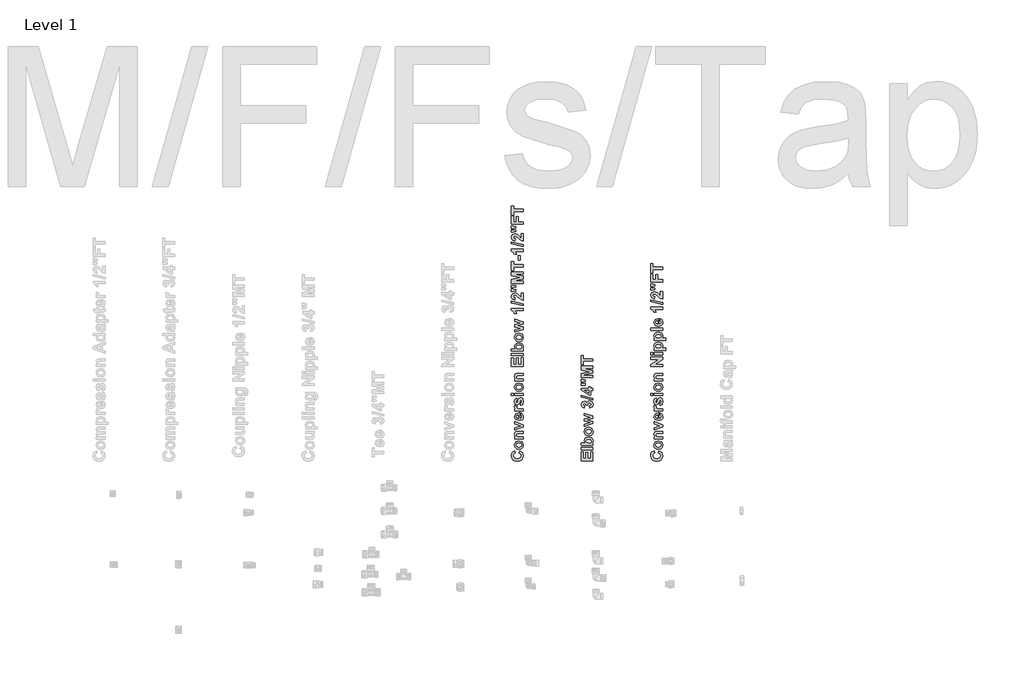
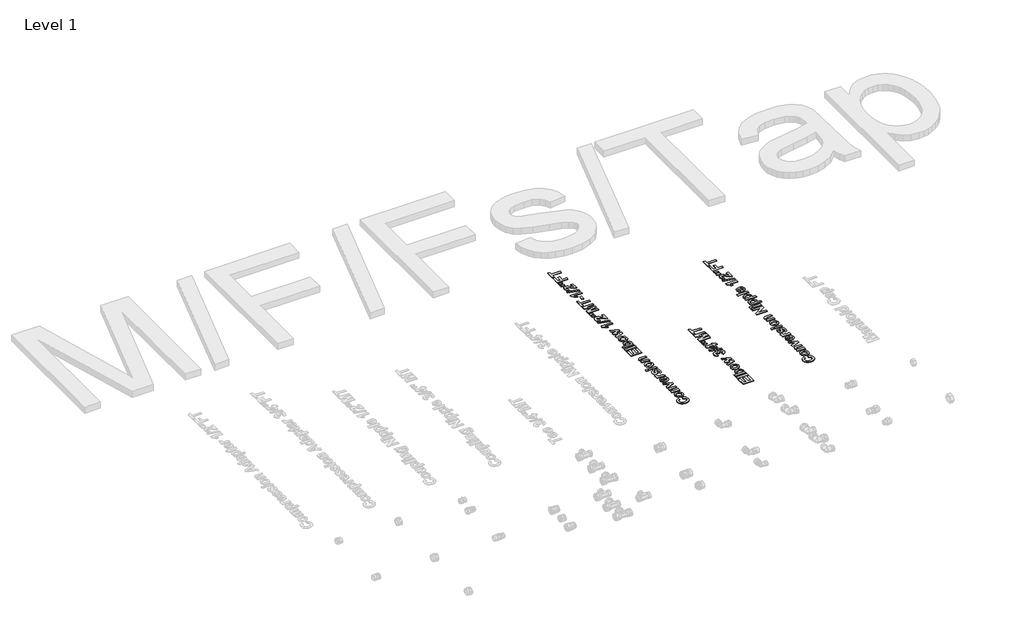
# One storey, part 57 of 58: 3 proxies.
"""IFC4 building model written with IfcOpenShell, lengths in millimetres."""

from ifc_helpers import new_model, si_unit, frame, origin, place, context, project, spatial, polyline, outline, extrude, element, save

model = new_model("IFC4")

# Units and contexts
model_context = context("Model", 3, world=origin())
ifc_project = project(units=[si_unit("LENGTHUNIT", "METRE", prefix="MILLI")], contexts=[model_context])

# Site, building, storey
site = spatial("IfcSite", under=ifc_project)
building = spatial("IfcBuilding", under=site)
storey = spatial("IfcBuildingStorey", under=building, Name="Level 1", Elevation=27.3876384)

# Proxies
placement = place(None, origin())
element("IfcBuildingElementProxy", 1, Name="50mm Arial", ObjectType="50mm Arial", at=placement, inside=storey, context=model_context, shape_type="SweptSolid", body=[
    extrude(outline(polyline([(34199.7082138, 30439.3748851), (34202.9471325, 30449.0916413), (34215.1500119, 30441.4371654), (34219.1417262, 30427.8488892), (34217.4368656, 30418.5717909), (34212.322284, 30411.1102584), (34204.2502912, 30406.1949462), (34193.6731973, 30404.5565088), (34182.5583922, 30406.2091797), (34174.2396849, 30411.1671925), (34169.0491911, 30418.8200869), (34167.3190265, 30428.5574026), (34168.7455425, 30437.0848684), (34173.0250904, 30443.8410504), (34182.7038905, 30449.0916413), (34184.3233498, 30439.3748851), (34178.3958755, 30435.3452148), (34176.226053, 30427.8868453), (34180.1671592, 30418.0498948), (34192.9267277, 30414.273265), (34206.2619634, 30417.9360266), (34210.2346997, 30427.4693284), (34207.6979684, 30434.9023938), (34199.7082138, 30439.3748851)])), frame((0.0, 0.0, 27.3876384), z_axis=(0.0, 0.0, 1.0), x_axis=(1.0, 0.0, 0.0)), (0.0, 0.0, 1.0), 2.0),
    extrude(outline(polyline([(34199.9865584, 30454.7597491), (34190.5038647, 30457.1573081), (34183.5009681, 30463.9451202), (34181.0844311, 30473.7504406), (34186.5627585, 30487.4715631), (34200.4167273, 30492.8170442), (34214.4035423, 30487.4146289), (34219.9514559, 30473.8263527), (34217.6424611, 30464.1538786), (34210.867301, 30457.1573081), (34199.9865584, 30454.7597491)]), holes=[polyline([(34200.5179435, 30464.4765053), (34209.5325122, 30467.1650609), (34212.6638887, 30473.8010487), (34209.5325122, 30480.4243844), (34200.4420313, 30483.100288), (34191.5033747, 30480.4243844), (34188.3719982, 30473.8010487), (34191.5033747, 30467.1650609), (34200.5179435, 30464.4765053)])]), frame((0.0, 0.0, 27.3876384), z_axis=(0.0, 0.0, 1.0), x_axis=(1.0, 0.0, 0.0)), (0.0, 0.0, 1.0), 2.0),
    extrude(outline(polyline([(34219.1417262, 30533.3035283), (34219.1417262, 30523.5867721), (34199.9992104, 30523.5867721), (34192.1296501, 30522.9794748), (34189.3588563, 30520.9931067), (34188.3719982, 30517.6909279), (34189.7826992, 30513.2437406), (34193.527699, 30510.548859), (34202.1500549, 30509.8213675), (34219.1417262, 30509.8213675), (34219.1417262, 30500.1046113), (34181.8941608, 30500.1046113), (34181.8941608, 30509.8213675), (34187.2586199, 30509.8213675), (34182.6279783, 30515.0371653), (34181.0844311, 30521.4485797), (34182.2610695, 30527.0913834), (34185.2595998, 30530.9629034), (34189.3904864, 30532.7911212), (34196.0138221, 30533.3035283), (34219.1417262, 30533.3035283)])), frame((0.0, 0.0, 27.3876384), z_axis=(0.0, 0.0, 1.0), x_axis=(1.0, 0.0, 0.0)), (0.0, 0.0, 1.0), 2.0),
    extrude(outline(polyline([(34219.1417262, 30553.0153853), (34181.8941608, 30538.5667712), (34181.8941608, 30548.2835274), (34200.8975043, 30555.1915338), (34207.2488215, 30557.1905539), (34204.0605108, 30558.177412), (34200.8975043, 30559.2022261), (34181.8941608, 30566.0975804), (34181.8941608, 30575.8143366), (34219.1417262, 30561.568155), (34219.1417262, 30553.0153853)])), frame((0.0, 0.0, 27.3876384), z_axis=(0.0, 0.0, 1.0), x_axis=(1.0, 0.0, 0.0)), (0.0, 0.0, 1.0), 2.0),
    extrude(outline(polyline([(34207.8055106, 30602.940281), (34209.42497, 30612.6570372), (34217.2629003, 30606.8624091), (34219.9514559, 30596.9558726), (34218.3667896, 30588.7668485), (34213.6127907, 30583.0259916), (34200.7962881, 30579.4581202), (34186.32237, 30584.189978), (34181.0844311, 30596.1587949), (34186.4615423, 30608.9752975), (34202.9471325, 30613.4667669), (34202.9471325, 30589.1748764), (34210.1081794, 30591.4648931), (34212.6638887, 30596.9179165), (34211.5125543, 30600.6502642), (34207.8055106, 30602.940281)]), holes=[polyline([(34197.2790248, 30603.7500107), (34190.643037, 30601.5865142), (34188.3719982, 30596.5763118), (34190.7632312, 30591.3636769), (34197.2790248, 30589.3393527), (34197.2790248, 30603.7500107)])]), frame((0.0, 0.0, 27.3876384), z_axis=(0.0, 0.0, 1.0), x_axis=(1.0, 0.0, 0.0)), (0.0, 0.0, 1.0), 2.0),
    extrude(outline(polyline([(34219.1417262, 30630.4710902), (34219.1417262, 30620.754334), (34181.8941608, 30620.754334), (34181.8941608, 30630.4710902), (34187.0814916, 30630.4710902), (34182.2420915, 30634.3552623), (34181.0844311, 30638.2773904), (34183.1340594, 30644.2364948), (34192.3826906, 30641.4024409), (34190.8011873, 30636.8983196), (34191.9082396, 30633.4759464), (34195.8999539, 30631.2744939), (34207.995291, 30630.4710902), (34219.1417262, 30630.4710902)])), frame((0.0, 0.0, 27.3876384), z_axis=(0.0, 0.0, 1.0), x_axis=(1.0, 0.0, 0.0)), (0.0, 0.0, 1.0), 2.0),
    extrude(outline(polyline([(34208.6152403, 30644.2364948), (34206.9957809, 30653.953251), (34211.2215577, 30656.4393742), (34212.6638887, 30661.6836391), (34211.2848179, 30667.2631826), (34208.7038045, 30668.5283853), (34206.8819127, 30667.8578279), (34205.604058, 30664.6821693), (34200.8468962, 30650.119687), (34192.4839068, 30645.8559542), (34184.3739579, 30649.5123898), (34181.0844311, 30660.8612573), (34183.7413566, 30671.7293479), (34191.610917, 30676.6256821), (34193.2303763, 30666.9089259), (34189.6245488, 30665.036426), (34188.3719982, 30661.1142979), (34189.4347685, 30656.4963083), (34191.4084846, 30655.5727104), (34193.1671162, 30656.4963083), (34195.8873019, 30665.0933601), (34200.2269469, 30675.3604795), (34207.527166, 30678.2451415), (34216.2886943, 30674.0636468), (34219.9514559, 30661.6836391), (34216.9023175, 30649.9109286), (34208.6152403, 30644.2364948)])), frame((0.0, 0.0, 27.3876384), z_axis=(0.0, 0.0, 1.0), x_axis=(1.0, 0.0, 0.0)), (0.0, 0.0, 1.0), 2.0),
    extrude(outline(polyline([(34219.1417262, 30687.152168), (34181.8941608, 30687.152168), (34181.8941608, 30696.8689242), (34219.1417262, 30696.8689242), (34219.1417262, 30687.152168)])), frame((0.0, 0.0, 27.3876384), z_axis=(0.0, 0.0, 1.0), x_axis=(1.0, 0.0, 0.0)), (0.0, 0.0, 1.0), 2.0),
    extrude(outline(polyline([(34177.0357827, 30687.152168), (34168.1287562, 30687.152168), (34168.1287562, 30696.8689242), (34177.0357827, 30696.8689242), (34177.0357827, 30687.152168)])), frame((0.0, 0.0, 27.3876384), z_axis=(0.0, 0.0, 1.0), x_axis=(1.0, 0.0, 0.0)), (0.0, 0.0, 1.0), 2.0),
    extrude(outline(polyline([(34199.9865584, 30704.1564913), (34190.5038647, 30706.5540503), (34183.5009681, 30713.3418624), (34181.0844311, 30723.1471828), (34186.5627585, 30736.8683053), (34200.4167273, 30742.2137864), (34214.4035423, 30736.8113712), (34219.9514559, 30723.2230949), (34217.6424611, 30713.5506208), (34210.867301, 30706.5540503), (34199.9865584, 30704.1564913)]), holes=[polyline([(34200.5179435, 30713.8732475), (34209.5325122, 30716.5618031), (34212.6638887, 30723.1977909), (34209.5325122, 30729.8211266), (34200.4420313, 30732.4970302), (34191.5033747, 30729.8211266), (34188.3719982, 30723.1977909), (34191.5033747, 30716.5618031), (34200.5179435, 30713.8732475)])]), frame((0.0, 0.0, 27.3876384), z_axis=(0.0, 0.0, 1.0), x_axis=(1.0, 0.0, 0.0)), (0.0, 0.0, 1.0), 2.0),
    extrude(outline(polyline([(34219.1417262, 30782.7002705), (34219.1417262, 30772.9835143), (34199.9992104, 30772.9835143), (34192.1296501, 30772.3762171), (34189.3588563, 30770.3898489), (34188.3719982, 30767.0876701), (34189.7826992, 30762.6404828), (34193.527699, 30759.9456012), (34202.1500549, 30759.2181097), (34219.1417262, 30759.2181097), (34219.1417262, 30749.5013535), (34181.8941608, 30749.5013535), (34181.8941608, 30759.2181097), (34187.2586199, 30759.2181097), (34182.6279783, 30764.4339076), (34181.0844311, 30770.8453219), (34182.2610695, 30776.4881256), (34185.2595998, 30780.3596456), (34189.3904864, 30782.1878634), (34196.0138221, 30782.7002705), (34219.1417262, 30782.7002705)])), frame((0.0, 0.0, 27.3876384), z_axis=(0.0, 0.0, 1.0), x_axis=(1.0, 0.0, 0.0)), (0.0, 0.0, 1.0), 2.0),
    extrude(outline(polyline([(34219.1417262, 30811.8505391), (34168.1287562, 30811.8505391), (34168.1287562, 30849.9078342), (34177.0357827, 30849.9078342), (34177.0357827, 30821.5672953), (34188.3719982, 30821.5672953), (34188.3719982, 30848.2883748), (34197.2790248, 30848.2883748), (34197.2790248, 30821.5672953), (34210.2346997, 30821.5672953), (34210.2346997, 30850.7175638), (34219.1417262, 30850.7175638), (34219.1417262, 30811.8505391)])), frame((0.0, 0.0, 27.3876384), z_axis=(0.0, 0.0, 1.0), x_axis=(1.0, 0.0, 0.0)), (0.0, 0.0, 1.0), 2.0),
    extrude(outline(polyline([(34219.1417262, 30858.8148607), (34168.1287562, 30858.8148607), (34168.1287562, 30868.5316169), (34219.1417262, 30868.5316169), (34219.1417262, 30858.8148607)])), frame((0.0, 0.0, 27.3876384), z_axis=(0.0, 0.0, 1.0), x_axis=(1.0, 0.0, 0.0)), (0.0, 0.0, 1.0), 2.0),
    extrude(outline(polyline([(34219.1417262, 30878.248373), (34168.1287562, 30878.248373), (34168.1287562, 30887.9651292), (34186.1831977, 30887.9651292), (34181.0844311, 30898.5169192), (34186.0060693, 30909.524182), (34200.1383827, 30913.8764791), (34214.8020812, 30909.5494861), (34219.9514559, 30899.0483043), (34218.3952566, 30893.0575698), (34213.777267, 30887.9651292), (34219.1417262, 30887.9651292), (34219.1417262, 30878.248373)]), holes=[polyline([(34199.80943, 30887.9651292), (34208.6152403, 30889.761717), (34212.6638887, 30896.4419868), (34209.7918788, 30901.9013362), (34200.758332, 30904.1597229), (34191.2756383, 30901.8886842), (34188.3719982, 30896.0624261), (34191.2060521, 30890.274124), (34199.80943, 30887.9651292)])]), frame((0.0, 0.0, 27.3876384), z_axis=(0.0, 0.0, 1.0), x_axis=(1.0, 0.0, 0.0)), (0.0, 0.0, 1.0), 2.0),
    extrude(outline(polyline([(34199.9865584, 30918.7348572), (34190.5038647, 30921.1324162), (34183.5009681, 30927.9202283), (34181.0844311, 30937.7255486), (34186.5627585, 30951.4466711), (34200.4167273, 30956.7921522), (34214.4035423, 30951.389737), (34219.9514559, 30937.8014608), (34217.6424611, 30928.1289867), (34210.867301, 30921.1324162), (34199.9865584, 30918.7348572)]), holes=[polyline([(34200.5179435, 30928.4516134), (34209.5325122, 30931.1401689), (34212.6638887, 30937.7761567), (34209.5325122, 30944.3994925), (34200.4420313, 30947.0753961), (34191.5033747, 30944.3994925), (34188.3719982, 30937.7761567), (34191.5033747, 30931.1401689), (34200.5179435, 30928.4516134)])]), frame((0.0, 0.0, 27.3876384), z_axis=(0.0, 0.0, 1.0), x_axis=(1.0, 0.0, 0.0)), (0.0, 0.0, 1.0), 2.0),
    extrude(outline(polyline([(34219.1417262, 30971.8480635), (34181.8941608, 30960.031071), (34181.8941608, 30969.6339589), (34206.2999195, 30976.6305295), (34181.8941608, 30983.1716271), (34181.8941608, 30992.9136873), (34206.2999195, 30999.3029606), (34181.8941608, 31006.3248352), (34181.8941608, 31015.9024191), (34219.1417262, 31004.1107306), (34219.1417262, 30994.5711027), (34195.1914404, 30987.966745), (34219.1417262, 30981.5268636), (34219.1417262, 30971.8480635)])), frame((0.0, 0.0, 27.3876384), z_axis=(0.0, 0.0, 1.0), x_axis=(1.0, 0.0, 0.0)), (0.0, 0.0, 1.0), 2.0),
    extrude(outline(polyline([(34219.1417262, 31062.8667407), (34219.1417262, 31053.1499845), (34182.6785864, 31053.1499845), (34190.8011873, 31041.0040392), (34181.0844311, 31041.0040392), (34176.3209432, 31049.1139881), (34168.1287562, 31055.1237006), (34168.1287562, 31062.8667407), (34219.1417262, 31062.8667407)])), frame((0.0, 0.0, 27.3876384), z_axis=(0.0, 0.0, 1.0), x_axis=(1.0, 0.0, 0.0)), (0.0, 0.0, 1.0), 2.0),
    extrude(outline(polyline([(34219.1417262, 31074.0258278), (34168.1287562, 31086.1717731), (34168.1287562, 31093.6364686), (34219.1417262, 31081.4905234), (34219.1417262, 31074.0258278)])), frame((0.0, 0.0, 27.3876384), z_axis=(0.0, 0.0, 1.0), x_axis=(1.0, 0.0, 0.0)), (0.0, 0.0, 1.0), 2.0),
    extrude(outline(polyline([(34209.42497, 31129.2645746), (34219.1417262, 31129.2645746), (34219.1417262, 31096.8753873), (34209.6084244, 31099.9751338), (34197.6585855, 31110.1600149), (34189.5106806, 31117.6753185), (34183.6654445, 31119.5478184), (34178.7501323, 31117.9726412), (34177.0357827, 31113.6266701), (34178.7248282, 31109.2743731), (34184.3233498, 31107.4018732), (34183.437708, 31097.685117), (34171.6903016, 31102.8977518), (34168.1287562, 31113.8417546), (34172.1204705, 31125.1526661), (34182.0459851, 31129.2645746), (34188.4732145, 31128.1385443), (34194.8624877, 31124.5706729), (34201.239109, 31118.5293303), (34206.7680445, 31112.9814168), (34209.42497, 31111.159525), (34209.42497, 31129.2645746)])), frame((0.0, 0.0, 27.3876384), z_axis=(0.0, 0.0, 1.0), x_axis=(1.0, 0.0, 0.0)), (0.0, 0.0, 1.0), 2.0),
    extrude(outline(polyline([(34185.9428092, 31153.6197252), (34176.6056138, 31151.9370057), (34168.1287562, 31151.9370057), (34168.1287562, 31161.6537619), (34176.6056138, 31161.6537619), (34185.9428092, 31160.1987789), (34185.9428092, 31153.6197252)])), frame((0.0, 0.0, 27.3876384), z_axis=(0.0, 0.0, 1.0), x_axis=(1.0, 0.0, 0.0)), (0.0, 0.0, 1.0), 2.0),
    extrude(outline(polyline([(34185.9428092, 31137.4251316), (34176.6056138, 31135.7424121), (34168.1287562, 31135.7424121), (34168.1287562, 31145.4591683), (34176.6056138, 31145.4591683), (34185.9428092, 31144.0041852), (34185.9428092, 31137.4251316)])), frame((0.0, 0.0, 27.3876384), z_axis=(0.0, 0.0, 1.0), x_axis=(1.0, 0.0, 0.0)), (0.0, 0.0, 1.0), 2.0),
    extrude(outline(polyline([(34219.1417262, 31170.5607884), (34168.1287562, 31170.5607884), (34168.1287562, 31187.210855), (34202.9218285, 31195.2575437), (34168.1287562, 31203.3042325), (34168.1287562, 31219.9542991), (34219.1417262, 31219.9542991), (34219.1417262, 31210.2375429), (34178.9841947, 31209.832678), (34219.1417262, 31200.9509556), (34219.1417262, 31189.5767839), (34178.9841947, 31180.6824095), (34219.1417262, 31180.2775446), (34219.1417262, 31170.5607884)])), frame((0.0, 0.0, 27.3876384), z_axis=(0.0, 0.0, 1.0), x_axis=(1.0, 0.0, 0.0)), (0.0, 0.0, 1.0), 2.0),
    extrude(outline(polyline([(34219.1417262, 31241.0072708), (34177.0357827, 31241.0072708), (34177.0357827, 31226.4321365), (34168.1287562, 31226.4321365), (34168.1287562, 31265.2991613), (34177.0357827, 31265.2991613), (34177.0357827, 31250.724027), (34219.1417262, 31250.724027), (34219.1417262, 31241.0072708)])), frame((0.0, 0.0, 27.3876384), z_axis=(0.0, 0.0, 1.0), x_axis=(1.0, 0.0, 0.0)), (0.0, 0.0, 1.0), 2.0),
    extrude(outline(polyline([(34205.3763216, 31270.1575394), (34196.4692951, 31270.1575394), (34196.4692951, 31289.5910518), (34205.3763216, 31289.5910518), (34205.3763216, 31270.1575394)])), frame((0.0, 0.0, 27.3876384), z_axis=(0.0, 0.0, 1.0), x_axis=(1.0, 0.0, 0.0)), (0.0, 0.0, 1.0), 2.0),
    extrude(outline(polyline([(34219.1417262, 31317.9315906), (34219.1417262, 31308.2148345), (34182.6785864, 31308.2148345), (34190.8011873, 31296.0688892), (34181.0844311, 31296.0688892), (34176.3209432, 31304.1788381), (34168.1287562, 31310.1885506), (34168.1287562, 31317.9315906), (34219.1417262, 31317.9315906)])), frame((0.0, 0.0, 27.3876384), z_axis=(0.0, 0.0, 1.0), x_axis=(1.0, 0.0, 0.0)), (0.0, 0.0, 1.0), 2.0),
    extrude(outline(polyline([(34219.1417262, 31329.0906778), (34168.1287562, 31341.2366231), (34168.1287562, 31348.7013186), (34219.1417262, 31336.5553733), (34219.1417262, 31329.0906778)])), frame((0.0, 0.0, 27.3876384), z_axis=(0.0, 0.0, 1.0), x_axis=(1.0, 0.0, 0.0)), (0.0, 0.0, 1.0), 2.0),
    extrude(outline(polyline([(34209.42497, 31384.3294246), (34219.1417262, 31384.3294246), (34219.1417262, 31351.9402373), (34209.6084244, 31355.0399838), (34197.6585855, 31365.2248649), (34189.5106806, 31372.7401685), (34183.6654445, 31374.6126684), (34178.7501323, 31373.0374911), (34177.0357827, 31368.6915201), (34178.7248282, 31364.3392231), (34184.3233498, 31362.4667232), (34183.437708, 31352.749967), (34171.6903016, 31357.9626018), (34168.1287562, 31368.9066046), (34172.1204705, 31380.2175161), (34182.0459851, 31384.3294246), (34188.4732145, 31383.2033943), (34194.8624877, 31379.6355229), (34201.239109, 31373.5941803), (34206.7680445, 31368.0462668), (34209.42497, 31366.224375), (34209.42497, 31384.3294246)])), frame((0.0, 0.0, 27.3876384), z_axis=(0.0, 0.0, 1.0), x_axis=(1.0, 0.0, 0.0)), (0.0, 0.0, 1.0), 2.0),
    extrude(outline(polyline([(34185.9428092, 31392.4899816), (34176.6056138, 31390.8072621), (34168.1287562, 31390.8072621), (34168.1287562, 31400.5240183), (34176.6056138, 31400.5240183), (34185.9428092, 31399.0690352), (34185.9428092, 31392.4899816)])), frame((0.0, 0.0, 27.3876384), z_axis=(0.0, 0.0, 1.0), x_axis=(1.0, 0.0, 0.0)), (0.0, 0.0, 1.0), 2.0),
    extrude(outline(polyline([(34185.9428092, 31408.6845752), (34176.6056138, 31407.0018557), (34168.1287562, 31407.0018557), (34168.1287562, 31416.7186119), (34176.6056138, 31416.7186119), (34185.9428092, 31415.2636289), (34185.9428092, 31408.6845752)])), frame((0.0, 0.0, 27.3876384), z_axis=(0.0, 0.0, 1.0), x_axis=(1.0, 0.0, 0.0)), (0.0, 0.0, 1.0), 2.0),
    extrude(outline(polyline([(34219.1417262, 31425.6256384), (34168.1287562, 31425.6256384), (34168.1287562, 31460.4440148), (34177.0357827, 31460.4440148), (34177.0357827, 31435.3423946), (34188.3719982, 31435.3423946), (34188.3719982, 31457.205096), (34197.2790248, 31457.205096), (34197.2790248, 31435.3423946), (34219.1417262, 31435.3423946), (34219.1417262, 31425.6256384)])), frame((0.0, 0.0, 27.3876384), z_axis=(0.0, 0.0, 1.0), x_axis=(1.0, 0.0, 0.0)), (0.0, 0.0, 1.0), 2.0),
    extrude(outline(polyline([(34219.1417262, 31479.8775271), (34177.0357827, 31479.8775271), (34177.0357827, 31465.3023929), (34168.1287562, 31465.3023929), (34168.1287562, 31504.1694176), (34177.0357827, 31504.1694176), (34177.0357827, 31489.5942833), (34219.1417262, 31489.5942833), (34219.1417262, 31479.8775271)])), frame((0.0, 0.0, 27.3876384), z_axis=(0.0, 0.0, 1.0), x_axis=(1.0, 0.0, 0.0)), (0.0, 0.0, 1.0), 2.0),
])
element("IfcBuildingElementProxy", 2, Name="50mm Arial", ObjectType="50mm Arial", at=placement, inside=storey, context=model_context, shape_type="SweptSolid", body=[
    extrude(outline(polyline([(34519.1417262, 30406.1759681), (34468.1287562, 30406.1759681), (34468.1287562, 30444.2332632), (34477.0357827, 30444.2332632), (34477.0357827, 30415.8927243), (34488.3719982, 30415.8927243), (34488.3719982, 30442.6138039), (34497.2790248, 30442.6138039), (34497.2790248, 30415.8927243), (34510.2346997, 30415.8927243), (34510.2346997, 30445.0429929), (34519.1417262, 30445.0429929), (34519.1417262, 30406.1759681)])), frame((0.0, 0.0, 27.3876384), z_axis=(0.0, 0.0, 1.0), x_axis=(1.0, 0.0, 0.0)), (0.0, 0.0, 1.0), 2.0),
    extrude(outline(polyline([(34519.1417262, 30453.1402897), (34468.1287562, 30453.1402897), (34468.1287562, 30462.8570459), (34519.1417262, 30462.8570459), (34519.1417262, 30453.1402897)])), frame((0.0, 0.0, 27.3876384), z_axis=(0.0, 0.0, 1.0), x_axis=(1.0, 0.0, 0.0)), (0.0, 0.0, 1.0), 2.0),
    extrude(outline(polyline([(34519.1417262, 30472.5738021), (34468.1287562, 30472.5738021), (34468.1287562, 30482.2905583), (34486.1831977, 30482.2905583), (34481.0844311, 30492.8423482), (34486.0060693, 30503.8496111), (34500.1383827, 30508.2019081), (34514.8020812, 30503.8749151), (34519.9514559, 30493.3737333), (34518.3952566, 30487.3829989), (34513.777267, 30482.2905583), (34519.1417262, 30482.2905583), (34519.1417262, 30472.5738021)]), holes=[polyline([(34499.80943, 30482.2905583), (34508.6152403, 30484.087146), (34512.6638887, 30490.7674159), (34509.7918788, 30496.2267653), (34500.758332, 30498.4851519), (34491.2756383, 30496.2141132), (34488.3719982, 30490.3878551), (34491.2060521, 30484.5995531), (34499.80943, 30482.2905583)])]), frame((0.0, 0.0, 27.3876384), z_axis=(0.0, 0.0, 1.0), x_axis=(1.0, 0.0, 0.0)), (0.0, 0.0, 1.0), 2.0),
    extrude(outline(polyline([(34499.9865584, 30513.0602862), (34490.5038647, 30515.4578452), (34483.5009681, 30522.2456573), (34481.0844311, 30532.0509777), (34486.5627585, 30545.7721002), (34500.4167273, 30551.1175813), (34514.4035423, 30545.7151661), (34519.9514559, 30532.1268899), (34517.6424611, 30522.4544158), (34510.867301, 30515.4578452), (34499.9865584, 30513.0602862)]), holes=[polyline([(34500.5179435, 30522.7770424), (34509.5325122, 30525.465598), (34512.6638887, 30532.1015858), (34509.5325122, 30538.7249216), (34500.4420313, 30541.4008251), (34491.5033747, 30538.7249216), (34488.3719982, 30532.1015858), (34491.5033747, 30525.465598), (34500.5179435, 30522.7770424)])]), frame((0.0, 0.0, 27.3876384), z_axis=(0.0, 0.0, 1.0), x_axis=(1.0, 0.0, 0.0)), (0.0, 0.0, 1.0), 2.0),
    extrude(outline(polyline([(34519.1417262, 30566.1734926), (34481.8941608, 30554.3565), (34481.8941608, 30563.959388), (34506.2999195, 30570.9559585), (34481.8941608, 30577.4970561), (34481.8941608, 30587.2391164), (34506.2999195, 30593.6283896), (34481.8941608, 30600.6502642), (34481.8941608, 30610.2278481), (34519.1417262, 30598.4361596), (34519.1417262, 30588.8965318), (34495.1914404, 30582.2921741), (34519.1417262, 30575.8522927), (34519.1417262, 30566.1734926)])), frame((0.0, 0.0, 27.3876384), z_axis=(0.0, 0.0, 1.0), x_axis=(1.0, 0.0, 0.0)), (0.0, 0.0, 1.0), 2.0),
    extrude(outline(polyline([(34504.8828926, 30632.9002792), (34503.7568622, 30642.6170354), (34509.1719295, 30644.805836), (34511.0444294, 30649.1201769), (34508.8999109, 30653.7128625), (34503.1242609, 30655.5727104), (34497.6712376, 30653.8710128), (34495.6595654, 30649.7148222), (34496.3807309, 30645.8559542), (34488.3719982, 30646.7036399), (34486.7778429, 30651.4924319), (34482.2737216, 30653.1435213), (34478.4591356, 30651.9099487), (34477.0357827, 30648.6267479), (34478.6868721, 30645.1664187), (34483.5136201, 30643.4267651), (34482.0586371, 30633.7100089), (34474.3345751, 30636.3859125), (34469.7861716, 30641.3834629), (34468.1287562, 30648.5634878), (34472.7214417, 30659.4695345), (34481.2236034, 30662.8602775), (34487.2617829, 30661.0415487), (34491.9398697, 30655.5853624), (34496.1087123, 30662.6451931), (34503.9339906, 30665.2894665), (34515.2638801, 30660.6018908), (34519.9514559, 30648.9303966), (34515.7826132, 30637.9547637), (34504.8828926, 30632.9002792)])), frame((0.0, 0.0, 27.3876384), z_axis=(0.0, 0.0, 1.0), x_axis=(1.0, 0.0, 0.0)), (0.0, 0.0, 1.0), 2.0),
    extrude(outline(polyline([(34519.1417262, 30668.3512569), (34468.1287562, 30680.4972021), (34468.1287562, 30687.9618977), (34519.1417262, 30675.8159524), (34519.1417262, 30668.3512569)])), frame((0.0, 0.0, 27.3876384), z_axis=(0.0, 0.0, 1.0), x_axis=(1.0, 0.0, 0.0)), (0.0, 0.0, 1.0), 2.0),
    extrude(outline(polyline([(34519.1417262, 30709.0148694), (34508.6152403, 30709.0148694), (34508.6152403, 30689.581357), (34500.5558996, 30689.581357), (34468.9384859, 30710.3053761), (34468.9384859, 30718.7316256), (34500.5179435, 30718.7316256), (34500.5179435, 30725.2094631), (34508.6152403, 30725.2094631), (34508.6152403, 30718.7316256), (34519.1417262, 30718.7316256), (34519.1417262, 30709.0148694)]), holes=[polyline([(34500.5179435, 30709.0148694), (34483.943789, 30709.0148694), (34500.5179435, 30698.1594308), (34500.5179435, 30709.0148694)])]), frame((0.0, 0.0, 27.3876384), z_axis=(0.0, 0.0, 1.0), x_axis=(1.0, 0.0, 0.0)), (0.0, 0.0, 1.0), 2.0),
    extrude(outline(polyline([(34485.9428092, 30747.9451543), (34476.6056138, 30746.2624348), (34468.1287562, 30746.2624348), (34468.1287562, 30755.979191), (34476.6056138, 30755.979191), (34485.9428092, 30754.524208), (34485.9428092, 30747.9451543)])), frame((0.0, 0.0, 27.3876384), z_axis=(0.0, 0.0, 1.0), x_axis=(1.0, 0.0, 0.0)), (0.0, 0.0, 1.0), 2.0),
    extrude(outline(polyline([(34485.9428092, 30731.7505606), (34476.6056138, 30730.0678411), (34468.1287562, 30730.0678411), (34468.1287562, 30739.7845973), (34476.6056138, 30739.7845973), (34485.9428092, 30738.3296143), (34485.9428092, 30731.7505606)])), frame((0.0, 0.0, 27.3876384), z_axis=(0.0, 0.0, 1.0), x_axis=(1.0, 0.0, 0.0)), (0.0, 0.0, 1.0), 2.0),
    extrude(outline(polyline([(34519.1417262, 30764.8862175), (34468.1287562, 30764.8862175), (34468.1287562, 30781.5362841), (34502.9218285, 30789.5829728), (34468.1287562, 30797.6296615), (34468.1287562, 30814.2797281), (34519.1417262, 30814.2797281), (34519.1417262, 30804.5629719), (34478.9841947, 30804.1581071), (34519.1417262, 30795.2763846), (34519.1417262, 30783.902213), (34478.9841947, 30775.0078385), (34519.1417262, 30774.6029737), (34519.1417262, 30764.8862175)])), frame((0.0, 0.0, 27.3876384), z_axis=(0.0, 0.0, 1.0), x_axis=(1.0, 0.0, 0.0)), (0.0, 0.0, 1.0), 2.0),
    extrude(outline(polyline([(34519.1417262, 30835.3326999), (34477.0357827, 30835.3326999), (34477.0357827, 30820.7575656), (34468.1287562, 30820.7575656), (34468.1287562, 30859.6245903), (34477.0357827, 30859.6245903), (34477.0357827, 30845.0494561), (34519.1417262, 30845.0494561), (34519.1417262, 30835.3326999)])), frame((0.0, 0.0, 27.3876384), z_axis=(0.0, 0.0, 1.0), x_axis=(1.0, 0.0, 0.0)), (0.0, 0.0, 1.0), 2.0),
])
element("IfcBuildingElementProxy", 3, Name="50mm Arial", ObjectType="50mm Arial", at=placement, inside=storey, context=model_context, shape_type="SweptSolid", body=[
    extrude(outline(polyline([(34799.7082138, 30439.3748851), (34802.9471325, 30449.0916413), (34815.1500119, 30441.4371654), (34819.1417262, 30427.8488892), (34817.4368656, 30418.5717909), (34812.322284, 30411.1102584), (34804.2502912, 30406.1949462), (34793.6731973, 30404.5565088), (34782.5583922, 30406.2091797), (34774.2396849, 30411.1671925), (34769.0491911, 30418.8200869), (34767.3190265, 30428.5574026), (34768.7455425, 30437.0848684), (34773.0250904, 30443.8410504), (34782.7038905, 30449.0916413), (34784.3233498, 30439.3748851), (34778.3958755, 30435.3452148), (34776.226053, 30427.8868453), (34780.1671592, 30418.0498948), (34792.9267277, 30414.273265), (34806.2619634, 30417.9360266), (34810.2346997, 30427.4693284), (34807.6979684, 30434.9023938), (34799.7082138, 30439.3748851)])), frame((0.0, 0.0, 27.3876384), z_axis=(0.0, 0.0, 1.0), x_axis=(1.0, 0.0, 0.0)), (0.0, 0.0, 1.0), 2.0),
    extrude(outline(polyline([(34799.9865584, 30454.7597491), (34790.5038647, 30457.1573081), (34783.5009681, 30463.9451202), (34781.0844311, 30473.7504406), (34786.5627585, 30487.4715631), (34800.4167273, 30492.8170442), (34814.4035423, 30487.4146289), (34819.9514559, 30473.8263527), (34817.6424611, 30464.1538786), (34810.867301, 30457.1573081), (34799.9865584, 30454.7597491)]), holes=[polyline([(34800.5179435, 30464.4765053), (34809.5325122, 30467.1650609), (34812.6638887, 30473.8010487), (34809.5325122, 30480.4243844), (34800.4420313, 30483.100288), (34791.5033747, 30480.4243844), (34788.3719982, 30473.8010487), (34791.5033747, 30467.1650609), (34800.5179435, 30464.4765053)])]), frame((0.0, 0.0, 27.3876384), z_axis=(0.0, 0.0, 1.0), x_axis=(1.0, 0.0, 0.0)), (0.0, 0.0, 1.0), 2.0),
    extrude(outline(polyline([(34819.1417262, 30533.3035283), (34819.1417262, 30523.5867721), (34799.9992104, 30523.5867721), (34792.1296501, 30522.9794748), (34789.3588563, 30520.9931067), (34788.3719982, 30517.6909279), (34789.7826992, 30513.2437406), (34793.527699, 30510.548859), (34802.1500549, 30509.8213675), (34819.1417262, 30509.8213675), (34819.1417262, 30500.1046113), (34781.8941608, 30500.1046113), (34781.8941608, 30509.8213675), (34787.2586199, 30509.8213675), (34782.6279783, 30515.0371653), (34781.0844311, 30521.4485797), (34782.2610695, 30527.0913834), (34785.2595998, 30530.9629034), (34789.3904864, 30532.7911212), (34796.0138221, 30533.3035283), (34819.1417262, 30533.3035283)])), frame((0.0, 0.0, 27.3876384), z_axis=(0.0, 0.0, 1.0), x_axis=(1.0, 0.0, 0.0)), (0.0, 0.0, 1.0), 2.0),
    extrude(outline(polyline([(34819.1417262, 30553.0153853), (34781.8941608, 30538.5667712), (34781.8941608, 30548.2835274), (34800.8975043, 30555.1915338), (34807.2488215, 30557.1905539), (34804.0605108, 30558.177412), (34800.8975043, 30559.2022261), (34781.8941608, 30566.0975804), (34781.8941608, 30575.8143366), (34819.1417262, 30561.568155), (34819.1417262, 30553.0153853)])), frame((0.0, 0.0, 27.3876384), z_axis=(0.0, 0.0, 1.0), x_axis=(1.0, 0.0, 0.0)), (0.0, 0.0, 1.0), 2.0),
    extrude(outline(polyline([(34807.8055106, 30602.940281), (34809.42497, 30612.6570372), (34817.2629003, 30606.8624091), (34819.9514559, 30596.9558726), (34818.3667896, 30588.7668485), (34813.6127907, 30583.0259916), (34800.7962881, 30579.4581202), (34786.32237, 30584.189978), (34781.0844311, 30596.1587949), (34786.4615423, 30608.9752975), (34802.9471325, 30613.4667669), (34802.9471325, 30589.1748764), (34810.1081794, 30591.4648931), (34812.6638887, 30596.9179165), (34811.5125543, 30600.6502642), (34807.8055106, 30602.940281)]), holes=[polyline([(34797.2790248, 30603.7500107), (34790.643037, 30601.5865142), (34788.3719982, 30596.5763118), (34790.7632312, 30591.3636769), (34797.2790248, 30589.3393527), (34797.2790248, 30603.7500107)])]), frame((0.0, 0.0, 27.3876384), z_axis=(0.0, 0.0, 1.0), x_axis=(1.0, 0.0, 0.0)), (0.0, 0.0, 1.0), 2.0),
    extrude(outline(polyline([(34819.1417262, 30630.4710902), (34819.1417262, 30620.754334), (34781.8941608, 30620.754334), (34781.8941608, 30630.4710902), (34787.0814916, 30630.4710902), (34782.2420915, 30634.3552623), (34781.0844311, 30638.2773904), (34783.1340594, 30644.2364948), (34792.3826906, 30641.4024409), (34790.8011873, 30636.8983196), (34791.9082396, 30633.4759464), (34795.8999539, 30631.2744939), (34807.995291, 30630.4710902), (34819.1417262, 30630.4710902)])), frame((0.0, 0.0, 27.3876384), z_axis=(0.0, 0.0, 1.0), x_axis=(1.0, 0.0, 0.0)), (0.0, 0.0, 1.0), 2.0),
    extrude(outline(polyline([(34808.6152403, 30644.2364948), (34806.9957809, 30653.953251), (34811.2215577, 30656.4393742), (34812.6638887, 30661.6836391), (34811.2848179, 30667.2631826), (34808.7038045, 30668.5283853), (34806.8819127, 30667.8578279), (34805.604058, 30664.6821693), (34800.8468962, 30650.119687), (34792.4839068, 30645.8559542), (34784.3739579, 30649.5123898), (34781.0844311, 30660.8612573), (34783.7413566, 30671.7293479), (34791.610917, 30676.6256821), (34793.2303763, 30666.9089259), (34789.6245488, 30665.036426), (34788.3719982, 30661.1142979), (34789.4347685, 30656.4963083), (34791.4084846, 30655.5727104), (34793.1671162, 30656.4963083), (34795.8873019, 30665.0933601), (34800.2269469, 30675.3604795), (34807.527166, 30678.2451415), (34816.2886943, 30674.0636468), (34819.9514559, 30661.6836391), (34816.9023175, 30649.9109286), (34808.6152403, 30644.2364948)])), frame((0.0, 0.0, 27.3876384), z_axis=(0.0, 0.0, 1.0), x_axis=(1.0, 0.0, 0.0)), (0.0, 0.0, 1.0), 2.0),
    extrude(outline(polyline([(34819.1417262, 30687.152168), (34781.8941608, 30687.152168), (34781.8941608, 30696.8689242), (34819.1417262, 30696.8689242), (34819.1417262, 30687.152168)])), frame((0.0, 0.0, 27.3876384), z_axis=(0.0, 0.0, 1.0), x_axis=(1.0, 0.0, 0.0)), (0.0, 0.0, 1.0), 2.0),
    extrude(outline(polyline([(34777.0357827, 30687.152168), (34768.1287562, 30687.152168), (34768.1287562, 30696.8689242), (34777.0357827, 30696.8689242), (34777.0357827, 30687.152168)])), frame((0.0, 0.0, 27.3876384), z_axis=(0.0, 0.0, 1.0), x_axis=(1.0, 0.0, 0.0)), (0.0, 0.0, 1.0), 2.0),
    extrude(outline(polyline([(34799.9865584, 30704.1564913), (34790.5038647, 30706.5540503), (34783.5009681, 30713.3418624), (34781.0844311, 30723.1471828), (34786.5627585, 30736.8683053), (34800.4167273, 30742.2137864), (34814.4035423, 30736.8113712), (34819.9514559, 30723.2230949), (34817.6424611, 30713.5506208), (34810.867301, 30706.5540503), (34799.9865584, 30704.1564913)]), holes=[polyline([(34800.5179435, 30713.8732475), (34809.5325122, 30716.5618031), (34812.6638887, 30723.1977909), (34809.5325122, 30729.8211266), (34800.4420313, 30732.4970302), (34791.5033747, 30729.8211266), (34788.3719982, 30723.1977909), (34791.5033747, 30716.5618031), (34800.5179435, 30713.8732475)])]), frame((0.0, 0.0, 27.3876384), z_axis=(0.0, 0.0, 1.0), x_axis=(1.0, 0.0, 0.0)), (0.0, 0.0, 1.0), 2.0),
    extrude(outline(polyline([(34819.1417262, 30782.7002705), (34819.1417262, 30772.9835143), (34799.9992104, 30772.9835143), (34792.1296501, 30772.3762171), (34789.3588563, 30770.3898489), (34788.3719982, 30767.0876701), (34789.7826992, 30762.6404828), (34793.527699, 30759.9456012), (34802.1500549, 30759.2181097), (34819.1417262, 30759.2181097), (34819.1417262, 30749.5013535), (34781.8941608, 30749.5013535), (34781.8941608, 30759.2181097), (34787.2586199, 30759.2181097), (34782.6279783, 30764.4339076), (34781.0844311, 30770.8453219), (34782.2610695, 30776.4881256), (34785.2595998, 30780.3596456), (34789.3904864, 30782.1878634), (34796.0138221, 30782.7002705), (34819.1417262, 30782.7002705)])), frame((0.0, 0.0, 27.3876384), z_axis=(0.0, 0.0, 1.0), x_axis=(1.0, 0.0, 0.0)), (0.0, 0.0, 1.0), 2.0),
    extrude(outline(polyline([(34819.1417262, 30811.8505391), (34768.1287562, 30811.8505391), (34768.1287562, 30822.0354202), (34802.4663555, 30843.4299967), (34768.1287562, 30843.4299967), (34768.1287562, 30853.1467529), (34819.1417262, 30853.1467529), (34819.1417262, 30842.6455711), (34785.3102079, 30821.5672953), (34819.1417262, 30821.5672953), (34819.1417262, 30811.8505391)])), frame((0.0, 0.0, 27.3876384), z_axis=(0.0, 0.0, 1.0), x_axis=(1.0, 0.0, 0.0)), (0.0, 0.0, 1.0), 2.0),
    extrude(outline(polyline([(34819.1417262, 30862.8635091), (34781.8941608, 30862.8635091), (34781.8941608, 30872.5802653), (34819.1417262, 30872.5802653), (34819.1417262, 30862.8635091)])), frame((0.0, 0.0, 27.3876384), z_axis=(0.0, 0.0, 1.0), x_axis=(1.0, 0.0, 0.0)), (0.0, 0.0, 1.0), 2.0),
    extrude(outline(polyline([(34777.0357827, 30862.8635091), (34768.1287562, 30862.8635091), (34768.1287562, 30872.5802653), (34777.0357827, 30872.5802653), (34777.0357827, 30862.8635091)])), frame((0.0, 0.0, 27.3876384), z_axis=(0.0, 0.0, 1.0), x_axis=(1.0, 0.0, 0.0)), (0.0, 0.0, 1.0), 2.0),
    extrude(outline(polyline([(34781.8941608, 30882.2970215), (34781.8941608, 30892.0137776), (34787.2586199, 30892.0137776), (34782.7924546, 30896.6317672), (34781.0844311, 30903.0969527), (34786.1642197, 30913.6044605), (34800.302859, 30917.9251275), (34814.7894291, 30913.4652882), (34819.9514559, 30902.6541318), (34818.7495134, 30897.1758044), (34814.6249528, 30892.0137776), (34832.9071308, 30892.0137776), (34832.9071308, 30882.2970215), (34781.8941608, 30882.2970215)]), holes=[polyline([(34799.8726901, 30892.0137776), (34809.5388382, 30894.4492927), (34812.6638887, 30900.3894191), (34809.7982048, 30905.9752887), (34800.3914232, 30908.2083713), (34791.3325724, 30905.9120285), (34788.3719982, 30900.2122907), (34791.2756383, 30894.3480765), (34799.8726901, 30892.0137776)])]), frame((0.0, 0.0, 27.3876384), z_axis=(0.0, 0.0, 1.0), x_axis=(1.0, 0.0, 0.0)), (0.0, 0.0, 1.0), 2.0),
    extrude(outline(polyline([(34781.8941608, 30925.2126946), (34781.8941608, 30934.9294508), (34787.2586199, 30934.9294508), (34782.7924546, 30939.5474404), (34781.0844311, 30946.0126258), (34786.1642197, 30956.5201337), (34800.302859, 30960.8408007), (34814.7894291, 30956.3809614), (34819.9514559, 30945.5698049), (34818.7495134, 30940.0914775), (34814.6249528, 30934.9294508), (34832.9071308, 30934.9294508), (34832.9071308, 30925.2126946), (34781.8941608, 30925.2126946)]), holes=[polyline([(34799.8726901, 30934.9294508), (34809.5388382, 30937.3649659), (34812.6638887, 30943.3050922), (34809.7982048, 30948.8909618), (34800.3914232, 30951.1240445), (34791.3325724, 30948.8277017), (34788.3719982, 30943.1279639), (34791.2756383, 30937.2637497), (34799.8726901, 30934.9294508)])]), frame((0.0, 0.0, 27.3876384), z_axis=(0.0, 0.0, 1.0), x_axis=(1.0, 0.0, 0.0)), (0.0, 0.0, 1.0), 2.0),
    extrude(outline(polyline([(34819.1417262, 30968.1283678), (34768.1287562, 30968.1283678), (34768.1287562, 30977.845124), (34819.1417262, 30977.845124), (34819.1417262, 30968.1283678)])), frame((0.0, 0.0, 27.3876384), z_axis=(0.0, 0.0, 1.0), x_axis=(1.0, 0.0, 0.0)), (0.0, 0.0, 1.0), 2.0),
    extrude(outline(polyline([(34807.8055106, 31008.6148519), (34809.42497, 31018.3316081), (34817.2629003, 31012.5369801), (34819.9514559, 31002.6304435), (34818.3667896, 30994.4414195), (34813.6127907, 30988.7005625), (34800.7962881, 30985.1326911), (34786.32237, 30989.864549), (34781.0844311, 31001.8333658), (34786.4615423, 31014.6498685), (34802.9471325, 31019.1413378), (34802.9471325, 30994.8494473), (34810.1081794, 30997.1394641), (34812.6638887, 31002.5924874), (34811.5125543, 31006.3248352), (34807.8055106, 31008.6148519)]), holes=[polyline([(34797.2790248, 31009.4245816), (34790.643037, 31007.2610851), (34788.3719982, 31002.2508827), (34790.7632312, 30997.0382479), (34797.2790248, 30995.0139237), (34797.2790248, 31009.4245816)])]), frame((0.0, 0.0, 27.3876384), z_axis=(0.0, 0.0, 1.0), x_axis=(1.0, 0.0, 0.0)), (0.0, 0.0, 1.0), 2.0),
    extrude(outline(polyline([(34819.1417262, 31068.5348484), (34819.1417262, 31058.8180922), (34782.6785864, 31058.8180922), (34790.8011873, 31046.672147), (34781.0844311, 31046.672147), (34776.3209432, 31054.7820959), (34768.1287562, 31060.7918083), (34768.1287562, 31068.5348484), (34819.1417262, 31068.5348484)])), frame((0.0, 0.0, 27.3876384), z_axis=(0.0, 0.0, 1.0), x_axis=(1.0, 0.0, 0.0)), (0.0, 0.0, 1.0), 2.0),
    extrude(outline(polyline([(34819.1417262, 31079.6939356), (34768.1287562, 31091.8398809), (34768.1287562, 31099.3045764), (34819.1417262, 31087.1586311), (34819.1417262, 31079.6939356)])), frame((0.0, 0.0, 27.3876384), z_axis=(0.0, 0.0, 1.0), x_axis=(1.0, 0.0, 0.0)), (0.0, 0.0, 1.0), 2.0),
    extrude(outline(polyline([(34809.42497, 31134.9326824), (34819.1417262, 31134.9326824), (34819.1417262, 31102.5434951), (34809.6084244, 31105.6432415), (34797.6585855, 31115.8281227), (34789.5106806, 31123.3434263), (34783.6654445, 31125.2159262), (34778.7501323, 31123.6407489), (34777.0357827, 31119.2947779), (34778.7248282, 31114.9424809), (34784.3233498, 31113.069981), (34783.437708, 31103.3532248), (34771.6903016, 31108.5658596), (34768.1287562, 31119.5098624), (34772.1204705, 31130.8207739), (34782.0459851, 31134.9326824), (34788.4732145, 31133.8066521), (34794.8624877, 31130.2387806), (34801.239109, 31124.1974381), (34806.7680445, 31118.6495246), (34809.42497, 31116.8276328), (34809.42497, 31134.9326824)])), frame((0.0, 0.0, 27.3876384), z_axis=(0.0, 0.0, 1.0), x_axis=(1.0, 0.0, 0.0)), (0.0, 0.0, 1.0), 2.0),
    extrude(outline(polyline([(34785.9428092, 31159.287833), (34776.6056138, 31157.6051135), (34768.1287562, 31157.6051135), (34768.1287562, 31167.3218697), (34776.6056138, 31167.3218697), (34785.9428092, 31165.8668867), (34785.9428092, 31159.287833)])), frame((0.0, 0.0, 27.3876384), z_axis=(0.0, 0.0, 1.0), x_axis=(1.0, 0.0, 0.0)), (0.0, 0.0, 1.0), 2.0),
    extrude(outline(polyline([(34785.9428092, 31143.0932394), (34776.6056138, 31141.4105199), (34768.1287562, 31141.4105199), (34768.1287562, 31151.127276), (34776.6056138, 31151.127276), (34785.9428092, 31149.672293), (34785.9428092, 31143.0932394)])), frame((0.0, 0.0, 27.3876384), z_axis=(0.0, 0.0, 1.0), x_axis=(1.0, 0.0, 0.0)), (0.0, 0.0, 1.0), 2.0),
    extrude(outline(polyline([(34819.1417262, 31176.2288962), (34768.1287562, 31176.2288962), (34768.1287562, 31211.0472726), (34777.0357827, 31211.0472726), (34777.0357827, 31185.9456524), (34788.3719982, 31185.9456524), (34788.3719982, 31207.8083538), (34797.2790248, 31207.8083538), (34797.2790248, 31185.9456524), (34819.1417262, 31185.9456524), (34819.1417262, 31176.2288962)])), frame((0.0, 0.0, 27.3876384), z_axis=(0.0, 0.0, 1.0), x_axis=(1.0, 0.0, 0.0)), (0.0, 0.0, 1.0), 2.0),
    extrude(outline(polyline([(34819.1417262, 31230.4807849), (34777.0357827, 31230.4807849), (34777.0357827, 31215.9056506), (34768.1287562, 31215.9056506), (34768.1287562, 31254.7726754), (34777.0357827, 31254.7726754), (34777.0357827, 31240.1975411), (34819.1417262, 31240.1975411), (34819.1417262, 31230.4807849)])), frame((0.0, 0.0, 27.3876384), z_axis=(0.0, 0.0, 1.0), x_axis=(1.0, 0.0, 0.0)), (0.0, 0.0, 1.0), 2.0),
])

save(model, "model.ifc")
